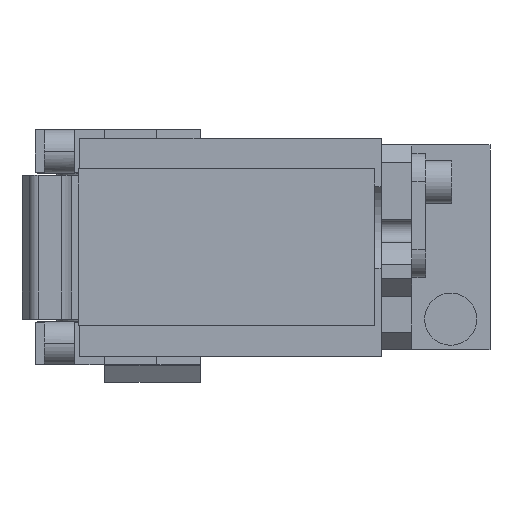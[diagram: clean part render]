
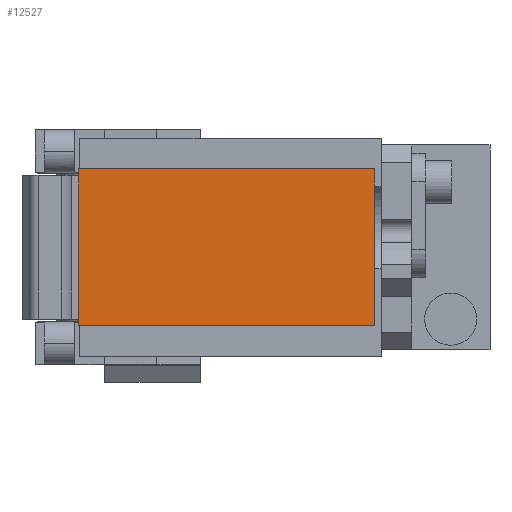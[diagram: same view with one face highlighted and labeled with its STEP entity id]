
A CAD part, front view. The second image highlights one B-rep face of the part: STEP entity #12527.
In plain terms, the highlighted planar face has unit normal (0, -1, 0).
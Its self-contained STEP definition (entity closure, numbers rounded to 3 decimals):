
#771 = VERTEX_POINT ( 'NONE', #9714 ) ;
#1079 = LINE ( 'NONE', #11066, #10446 ) ;
#1198 = LINE ( 'NONE', #1263, #6165 ) ;
#1263 = CARTESIAN_POINT ( 'NONE',  ( -6., -233., 18. ) ) ;
#2525 = DIRECTION ( 'NONE',  ( -1., 0., 0. ) ) ;
#2677 = CARTESIAN_POINT ( 'NONE',  ( -6., -233., 18. ) ) ;
#2879 = EDGE_LOOP ( 'NONE', ( #3791, #14124, #5992, #12490 ) ) ;
#3029 = EDGE_CURVE ( 'NONE', #10839, #3857, #12758, .T. ) ;
#3604 = CARTESIAN_POINT ( 'NONE',  ( 62., -233., 18. ) ) ;
#3791 = ORIENTED_EDGE ( 'NONE', *, *, #5883, .T. ) ;
#3857 = VERTEX_POINT ( 'NONE', #12101 ) ;
#3906 = CARTESIAN_POINT ( 'NONE',  ( 62., -233., 18. ) ) ;
#3962 = AXIS2_PLACEMENT_3D ( 'NONE', #10813, #12094, #8405 ) ;
#4367 = VECTOR ( 'NONE', #2525, 1000. ) ;
#4436 = CARTESIAN_POINT ( 'NONE',  ( -6., -233., -18. ) ) ;
#4924 = PLANE ( 'NONE',  #3962 ) ;
#5883 = EDGE_CURVE ( 'NONE', #3857, #10653, #1198, .T. ) ;
#5992 = ORIENTED_EDGE ( 'NONE', *, *, #14666, .T. ) ;
#6165 = VECTOR ( 'NONE', #9141, 1000. ) ;
#6701 = VECTOR ( 'NONE', #12716, 1000. ) ;
#8405 = DIRECTION ( 'NONE',  ( 0., 0., -1. ) ) ;
#9141 = DIRECTION ( 'NONE',  ( 0., 0., -1. ) ) ;
#9714 = CARTESIAN_POINT ( 'NONE',  ( 62., -233., -18. ) ) ;
#10446 = VECTOR ( 'NONE', #13465, 1000. ) ;
#10653 = VERTEX_POINT ( 'NONE', #4436 ) ;
#10813 = CARTESIAN_POINT ( 'NONE',  ( 0., -233., 0. ) ) ;
#10839 = VERTEX_POINT ( 'NONE', #3906 ) ;
#11010 = EDGE_CURVE ( 'NONE', #10653, #771, #1079, .T. ) ;
#11066 = CARTESIAN_POINT ( 'NONE',  ( -6., -233., -18. ) ) ;
#12094 = DIRECTION ( 'NONE',  ( 0., -1., 0. ) ) ;
#12101 = CARTESIAN_POINT ( 'NONE',  ( -6., -233., 18. ) ) ;
#12490 = ORIENTED_EDGE ( 'NONE', *, *, #3029, .T. ) ;
#12527 = ADVANCED_FACE ( 'NONE', ( #14290 ), #4924, .T. ) ;
#12650 = LINE ( 'NONE', #3604, #6701 ) ;
#12716 = DIRECTION ( 'NONE',  ( 0., 0., 1. ) ) ;
#12758 = LINE ( 'NONE', #2677, #4367 ) ;
#13465 = DIRECTION ( 'NONE',  ( 1., 0., 0. ) ) ;
#14124 = ORIENTED_EDGE ( 'NONE', *, *, #11010, .T. ) ;
#14290 = FACE_OUTER_BOUND ( 'NONE', #2879, .T. ) ;
#14666 = EDGE_CURVE ( 'NONE', #771, #10839, #12650, .T. ) ;
